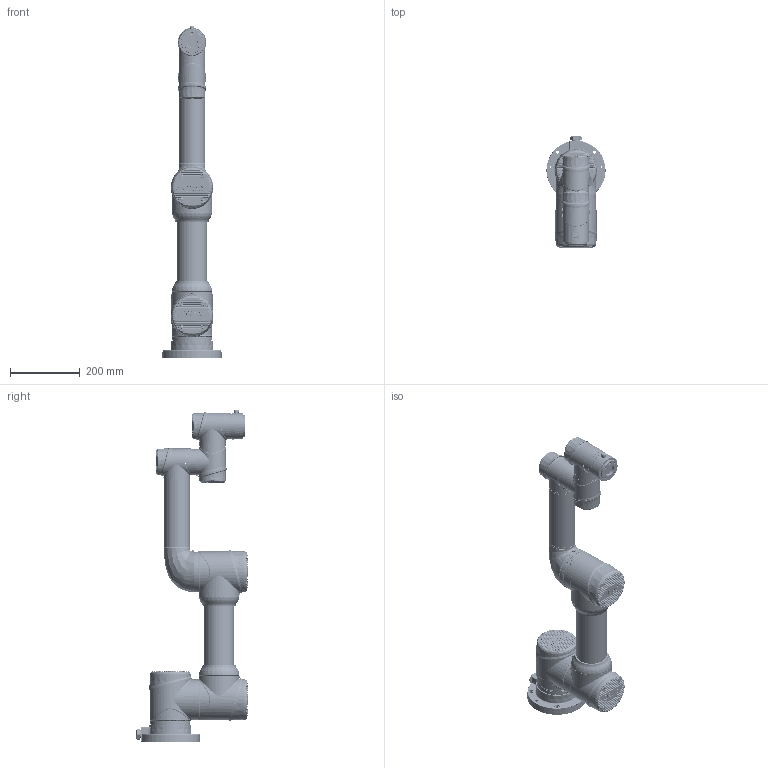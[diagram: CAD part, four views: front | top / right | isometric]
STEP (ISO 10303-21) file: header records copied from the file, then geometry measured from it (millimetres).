
FILE_DESCRIPTION (( 'STEP AP214' ), '1' );
FILE_NAME ('i7-俋楷耀倰.STEP', '2022-01-13T02:10:49', ( '' ), ( '' ), 'SwSTEP 2.0', 'SolidWorks 2018', '' );
FILE_SCHEMA (( 'AUTOMOTIVE_DESIGN' ));
Length unit declared in the file: millimetre
Products named in the file (12): i7-湮旋奪; M25(ID3); M14(ID6); i7-藺傷; M14(ID5); i7-俋楷耀倰; i7-俔芛; i7-苤旋奪; M25(ID1); M25(ID2); i7-菁釱; M14(ID4)
Assembly tree (11 placements, depth 2):
  i7-俋楷耀倰
    i7-菁釱
    M25(ID1)
    M25(ID2)
    M25(ID3)
    M14(ID4)
    M14(ID5)
    M14(ID6)
    i7-湮旋奪
    i7-苤旋奪
    i7-俔芛
    i7-藺傷
Bounding box: 170.35 x 319.65 x 955.1 mm (x, y, z)
Volume: 11447124.6 mm3; surface area: 731998.8 mm2
Topology: 33 solids, 48 shells, 6813 faces, 16397 edges, 10295 vertices
Faces by surface type: bspline 3436, cylinder 1522, plane 1334, cone 361, torus 124, sphere 36
Entity records: 345263 total; most frequent: CARTESIAN_POINT 180248, ORIENTED_EDGE 32630, DIRECTION 18075, EDGE_CURVE 16315, VERTEX_POINT 10295, B_SPLINE_CURVE_WITH_KNOTS 8330, EDGE_LOOP 7550, AXIS2_PLACEMENT_3D 7162
